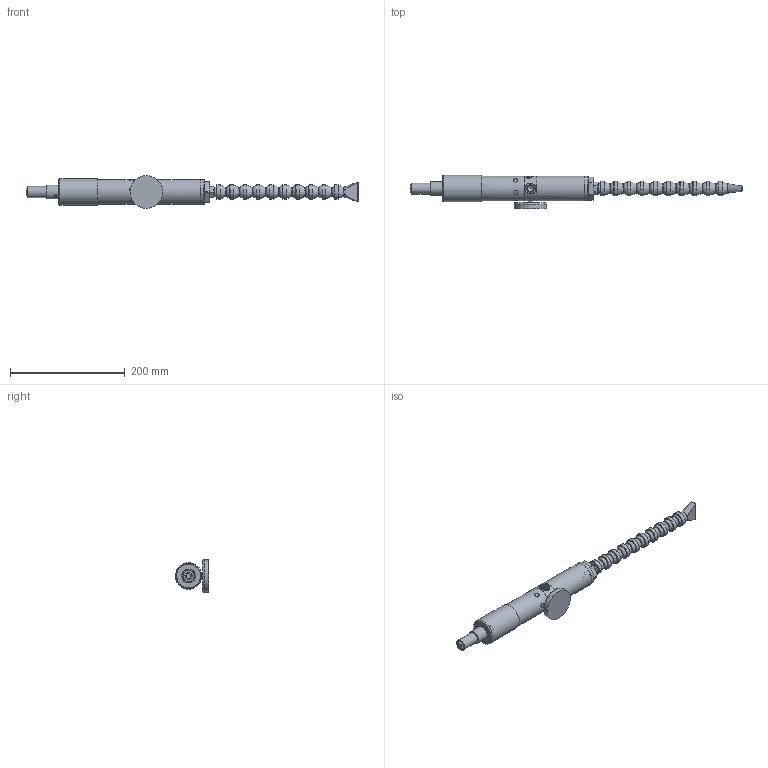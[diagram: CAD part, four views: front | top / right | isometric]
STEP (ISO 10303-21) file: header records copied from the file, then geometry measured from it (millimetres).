
FILE_DESCRIPTION (( 'STEP AP214' ), '1' );
FILE_NAME ('SIMP - CS_15 R Q1200.STEP', '2023-06-02T11:52:07', ( '' ), ( '' ), 'SwSTEP 2.0', 'SolidWorks 2021', '' );
FILE_SCHEMA (( 'AUTOMOTIVE_DESIGN' ));
Length unit declared in the file: millimetre
Products named in the file (1): SIMP - CS_15 R Q1200
Bounding box: 578.9 x 57.98 x 57 mm (x, y, z)
Volume: 464073.8 mm3; surface area: 104525.6 mm2
Topology: 17 solids, 22 shells, 1555 faces, 4091 edges, 2688 vertices
Faces by surface type: plane 924, bspline 312, cylinder 218, cone 61, torus 39, sphere 1
Full cylindrical faces by diameter (mm): 3.2 x1, 3.3 x1, 4 x1, 6 x1, 6.5 x1, 7 x1, 8 x6, 9 x1, 9.4 x1, 9.5 x1, 10 x2, 11.8 x7, 12.2 x1, 12.3 x9, 13 x1, 13.16 x1, 14.2 x1, 16.2 x1, 16.3 x9, 19 x2, 19.3 x1, 21 x9, 23.9 x1, 25 x10, 35.8 x1, 39.8 x2, 40 x1, 40.4 x1, 40.47 x2, 43 x6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
Entity records: 89340 total; most frequent: CARTESIAN_POINT 37131, ORIENTED_EDGE 7700, DIRECTION 6338, EDGE_CURVE 3850, VERTEX_POINT 2626, AXIS2_PLACEMENT_3D 2353, EDGE_LOOP 1864, FACE_OUTER_BOUND 1666
